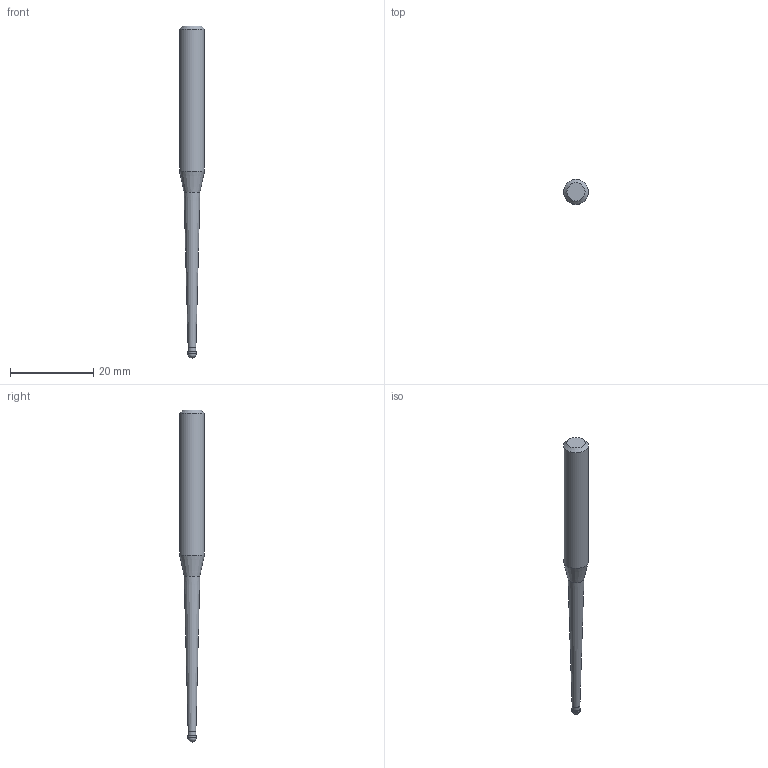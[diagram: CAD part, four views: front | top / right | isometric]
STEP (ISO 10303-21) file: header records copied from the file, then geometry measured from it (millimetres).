
FILE_DESCRIPTION((''),'2;1');
FILE_NAME('C:\Users\nsx150\AppData\Local\Temp\Mastercam 2021\E0ENTZRV18\TEMP.step','2021-09-02T09:57:01',(''),(''),'STEP Write','Mastercam 2021 ... CNC Software, Inc.','');
FILE_SCHEMA(('AUTOMOTIVE_DESIGN'));
Length unit declared in the file: millimetre
Products named in the file (1): None
Bounding box: 6 x 6 x 80 mm (x, y, z)
Volume: 1337.7 mm3; surface area: 1115.8 mm2
Topology: 2 solids, 2 shells, 10 faces, 16 edges, 9 vertices
Faces by surface type: plane 3, cylinder 3, cone 3, sphere 1
Full cylindrical faces by diameter (mm): 1.875 x1, 2 x1, 6 x1
Entity records: 232 total; most frequent: DIRECTION 40, CARTESIAN_POINT 28, AXIS2_PLACEMENT_3D 20, ORIENTED_EDGE 16, EDGE_LOOP 16, STYLED_ITEM 13, ADVANCED_FACE 10, FACE_BOUND 9
